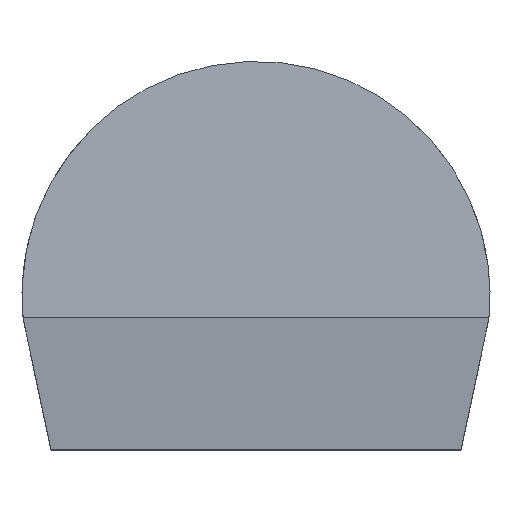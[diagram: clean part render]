
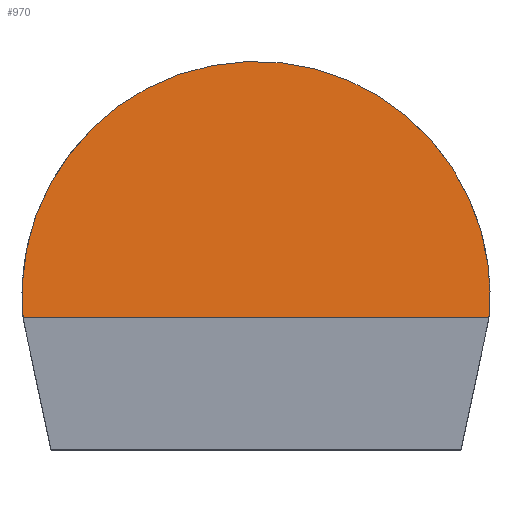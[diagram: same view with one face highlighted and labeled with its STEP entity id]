
A CAD part, top view. The second image highlights one B-rep face of the part: STEP entity #970.
In plain terms, the highlighted planar face has unit normal (0, 0.087, 0.996).
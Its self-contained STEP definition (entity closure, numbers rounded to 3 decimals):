
#16=ELLIPSE('',#1033,1.983,1.975);
#45=FACE_OUTER_BOUND('',#92,.T.);
#92=EDGE_LOOP('',(#711,#712));
#211=LINE('',#1492,#340);
#340=VECTOR('',#1216,10.);
#446=VERTEX_POINT('',#1489);
#447=VERTEX_POINT('',#1490);
#556=EDGE_CURVE('',#446,#447,#16,.T.);
#557=EDGE_CURVE('',#446,#447,#211,.T.);
#711=ORIENTED_EDGE('',*,*,#556,.F.);
#712=ORIENTED_EDGE('',*,*,#557,.T.);
#876=PLANE('',#1032);
#970=ADVANCED_FACE('',(#45),#876,.F.);
#1032=AXIS2_PLACEMENT_3D('',#1488,#1212,#1213);
#1033=AXIS2_PLACEMENT_3D('',#1491,#1214,#1215);
#1212=DIRECTION('center_axis',(0.,-0.087,
-0.996));
#1213=DIRECTION('ref_axis',(0.,-0.996,0.087));
#1214=DIRECTION('center_axis',(0.,-0.087,
-0.996));
#1215=DIRECTION('ref_axis',(0.,-0.996,0.087));
#1216=DIRECTION('',(1.,0.,0.));
#1488=CARTESIAN_POINT('Origin',(2.54,2.195,6.808));
#1489=CARTESIAN_POINT('',(-0.696,0.,7.));
#1490=CARTESIAN_POINT('',(3.236,0.,7.));
#1491=CARTESIAN_POINT('Origin',(1.27,0.19,6.983));
#1492=CARTESIAN_POINT('',(1.905,0.,7.));
